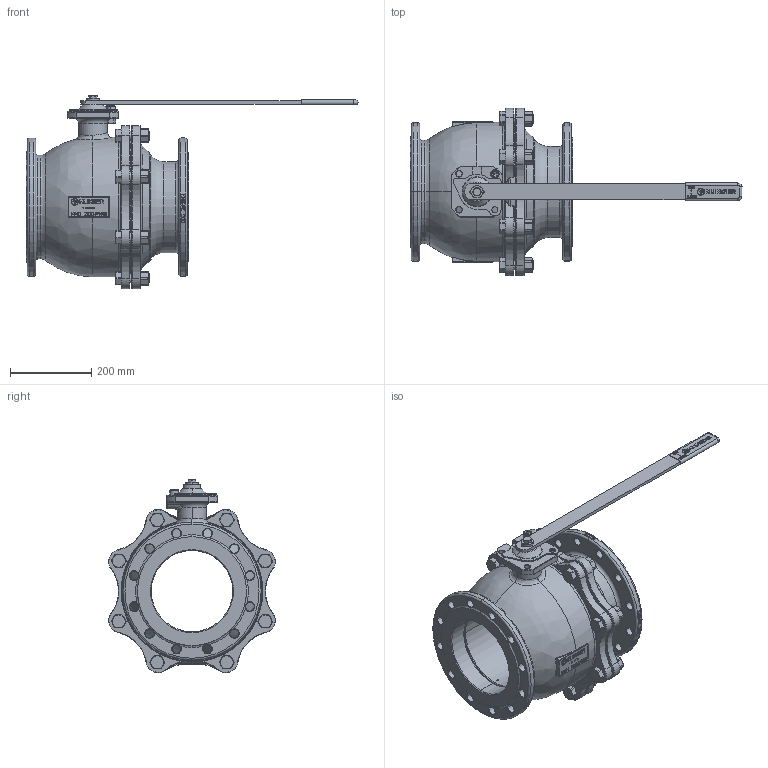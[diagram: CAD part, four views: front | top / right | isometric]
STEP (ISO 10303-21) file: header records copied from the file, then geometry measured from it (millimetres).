
FILE_DESCRIPTION((''),'2;1');
FILE_NAME('KHEFK200VFK200P016PHH','2015-08-10T',('mahrhauserh'),('RAND'),'PRO/ENGINEER BY PARAMETRIC TECHNOLOGY CORPORATION, 2013410','PRO/ENGINEER BY PARAMETRIC TECHNOLOGY CORPORATION, 2013410','');
FILE_SCHEMA(('CONFIG_CONTROL_DESIGN'));
Products named in the file (1): KHEFK200VFK200P016PHH
Bounding box: 816.8 x 411.07 x 475.92 mm (x, y, z)
Volume: 12561114.3 mm3; surface area: 2206229.7 mm2
Topology: 1 solids, 4 shells, 3347 faces, 8822 edges, 5621 vertices
Faces by surface type: plane 2088, cylinder 520, torus 363, cone 272, bspline 84, sphere 20
Entity records: 122536 total; most frequent: CARTESIAN_POINT 40494, ORIENTED_EDGE 17632, DIRECTION 16447, EDGE_CURVE 8816, VERTEX_POINT 5621, AXIS2_PLACEMENT_3D 5597, VECTOR 5253, LINE 5253
